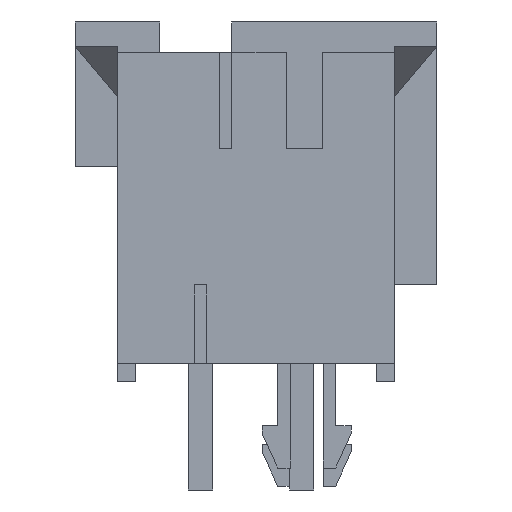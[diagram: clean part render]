
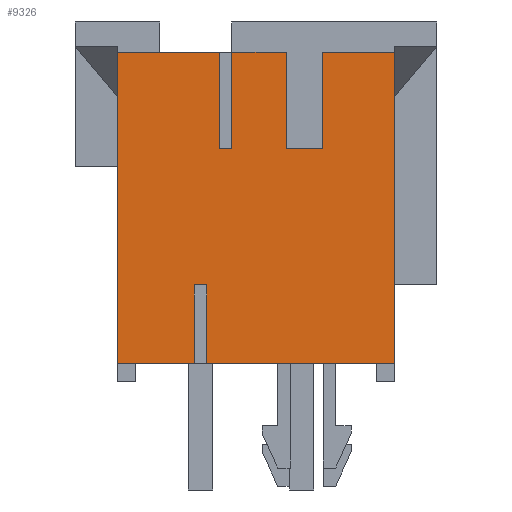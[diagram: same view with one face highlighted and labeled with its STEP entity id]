
A CAD part, left-side view. The second image highlights one B-rep face of the part: STEP entity #9326.
In plain terms, the highlighted planar face has unit normal (-1, 0, 0).
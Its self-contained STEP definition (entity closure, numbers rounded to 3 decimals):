
#2229=DIRECTION('',(0.,0.,1.));
#2230=VECTOR('',#2229,12.9);
#2231=CARTESIAN_POINT('',(-11.505,5.75,-6.7));
#2232=LINE('',#2231,#2230);
#3101=DIRECTION('',(0.,1.,0.));
#3102=VECTOR('',#3101,0.5);
#3103=CARTESIAN_POINT('',(-11.505,2.05,-3.45));
#3104=LINE('',#3103,#3102);
#3105=DIRECTION('',(0.,0.,1.));
#3106=VECTOR('',#3105,3.25);
#3107=CARTESIAN_POINT('',(-11.505,2.55,-6.7));
#3108=LINE('',#3107,#3106);
#3109=DIRECTION('',(0.,1.,0.));
#3110=VECTOR('',#3109,3.2);
#3111=CARTESIAN_POINT('',(-11.505,2.55,-6.7));
#3112=LINE('',#3111,#3110);
#3113=DIRECTION('',(0.,-1.,0.));
#3114=VECTOR('',#3113,4.25);
#3115=CARTESIAN_POINT('',(-11.505,5.75,6.2));
#3116=LINE('',#3115,#3114);
#3117=DIRECTION('',(0.,0.,-1.));
#3118=VECTOR('',#3117,4.);
#3119=CARTESIAN_POINT('',(-11.505,1.5,6.2));
#3120=LINE('',#3119,#3118);
#3121=DIRECTION('',(0.,1.,0.));
#3122=VECTOR('',#3121,0.5);
#3123=CARTESIAN_POINT('',(-11.505,1.,2.2));
#3124=LINE('',#3123,#3122);
#3125=DIRECTION('',(0.,0.,-1.));
#3126=VECTOR('',#3125,4.);
#3127=CARTESIAN_POINT('',(-11.505,1.,6.2));
#3128=LINE('',#3127,#3126);
#3129=DIRECTION('',(0.,-1.,0.));
#3130=VECTOR('',#3129,2.25);
#3131=CARTESIAN_POINT('',(-11.505,1.,6.2));
#3132=LINE('',#3131,#3130);
#3133=DIRECTION('',(0.,0.,-1.));
#3134=VECTOR('',#3133,4.);
#3135=CARTESIAN_POINT('',(-11.505,-1.25,6.2));
#3136=LINE('',#3135,#3134);
#3137=DIRECTION('',(0.,1.,0.));
#3138=VECTOR('',#3137,1.5);
#3139=CARTESIAN_POINT('',(-11.505,-2.75,2.2));
#3140=LINE('',#3139,#3138);
#3141=DIRECTION('',(0.,0.,-1.));
#3142=VECTOR('',#3141,4.);
#3143=CARTESIAN_POINT('',(-11.505,-2.75,6.2));
#3144=LINE('',#3143,#3142);
#3145=DIRECTION('',(0.,-1.,0.));
#3146=VECTOR('',#3145,3.);
#3147=CARTESIAN_POINT('',(-11.505,-2.75,6.2));
#3148=LINE('',#3147,#3146);
#3149=DIRECTION('',(0.,0.,1.));
#3150=VECTOR('',#3149,12.9);
#3151=CARTESIAN_POINT('',(-11.505,-5.75,-6.7));
#3152=LINE('',#3151,#3150);
#3153=DIRECTION('',(0.,1.,0.));
#3154=VECTOR('',#3153,7.8);
#3155=CARTESIAN_POINT('',(-11.505,-5.75,-6.7));
#3156=LINE('',#3155,#3154);
#3157=DIRECTION('',(0.,0.,1.));
#3158=VECTOR('',#3157,3.25);
#3159=CARTESIAN_POINT('',(-11.505,2.05,-6.7));
#3160=LINE('',#3159,#3158);
#4043=CARTESIAN_POINT('',(-11.505,-2.75,2.2));
#4044=CARTESIAN_POINT('',(-11.505,-1.25,2.2));
#4045=VERTEX_POINT('',#4043);
#4046=VERTEX_POINT('',#4044);
#4047=CARTESIAN_POINT('',(-11.505,1.5,6.2));
#4048=CARTESIAN_POINT('',(-11.505,1.5,2.2));
#4049=VERTEX_POINT('',#4047);
#4050=VERTEX_POINT('',#4048);
#4051=CARTESIAN_POINT('',(-11.505,1.,6.2));
#4052=CARTESIAN_POINT('',(-11.505,1.,2.2));
#4053=VERTEX_POINT('',#4051);
#4054=VERTEX_POINT('',#4052);
#4075=CARTESIAN_POINT('',(-11.505,-1.25,6.2));
#4077=VERTEX_POINT('',#4075);
#4079=CARTESIAN_POINT('',(-11.505,-2.75,6.2));
#4081=VERTEX_POINT('',#4079);
#4870=CARTESIAN_POINT('',(-11.505,2.55,-6.7));
#4872=VERTEX_POINT('',#4870);
#4876=CARTESIAN_POINT('',(-11.505,2.05,-6.7));
#4877=VERTEX_POINT('',#4876);
#4882=CARTESIAN_POINT('',(-11.505,2.05,-3.45));
#4883=CARTESIAN_POINT('',(-11.505,2.55,-3.45));
#4884=VERTEX_POINT('',#4882);
#4885=VERTEX_POINT('',#4883);
#4908=CARTESIAN_POINT('',(-11.505,5.75,-6.7));
#4909=CARTESIAN_POINT('',(-11.505,5.75,6.2));
#4910=VERTEX_POINT('',#4908);
#4911=VERTEX_POINT('',#4909);
#4912=CARTESIAN_POINT('',(-11.505,-5.75,-6.7));
#4913=CARTESIAN_POINT('',(-11.505,-5.75,6.2));
#4914=VERTEX_POINT('',#4912);
#4915=VERTEX_POINT('',#4913);
#9298=CARTESIAN_POINT('',(-11.505,4.,6.2));
#9299=DIRECTION('',(-1.,0.,0.));
#9300=DIRECTION('',(0.,-1.,0.));
#9301=AXIS2_PLACEMENT_3D('',#9298,#9299,#9300);
#9302=PLANE('',#9301);
#9303=ORIENTED_EDGE('',*,*,#5595,.T.);
#9305=ORIENTED_EDGE('',*,*,#9304,.F.);
#9306=ORIENTED_EDGE('',*,*,#5665,.T.);
#9307=ORIENTED_EDGE('',*,*,#7914,.T.);
#9308=ORIENTED_EDGE('',*,*,#5283,.T.);
#9310=ORIENTED_EDGE('',*,*,#9309,.T.);
#9311=ORIENTED_EDGE('',*,*,#5411,.F.);
#9312=ORIENTED_EDGE('',*,*,#5536,.F.);
#9313=ORIENTED_EDGE('',*,*,#5259,.T.);
#9315=ORIENTED_EDGE('',*,*,#9314,.T.);
#9316=ORIENTED_EDGE('',*,*,#5427,.F.);
#9318=ORIENTED_EDGE('',*,*,#9317,.F.);
#9319=ORIENTED_EDGE('',*,*,#5186,.T.);
#9320=ORIENTED_EDGE('',*,*,#8040,.F.);
#9321=ORIENTED_EDGE('',*,*,#5673,.T.);
#9323=ORIENTED_EDGE('',*,*,#9322,.T.);
#9324=EDGE_LOOP('',(#9303,#9305,#9306,#9307,#9308,#9310,#9311,#9312,#9313,#9315,
#9316,#9318,#9319,#9320,#9321,#9323));
#9325=FACE_OUTER_BOUND('',#9324,.F.);
#9326=ADVANCED_FACE('',(#9325),#9302,.T.);
#5186=EDGE_CURVE('',#4081,#4915,#3148,.T.);
#5259=EDGE_CURVE('',#4053,#4077,#3132,.T.);
#5283=EDGE_CURVE('',#4911,#4049,#3116,.T.);
#5411=EDGE_CURVE('',#4054,#4050,#3124,.T.);
#5427=EDGE_CURVE('',#4045,#4046,#3140,.T.);
#5536=EDGE_CURVE('',#4053,#4054,#3128,.T.);
#5595=EDGE_CURVE('',#4884,#4885,#3104,.T.);
#5665=EDGE_CURVE('',#4872,#4910,#3112,.T.);
#5673=EDGE_CURVE('',#4914,#4877,#3156,.T.);
#7914=EDGE_CURVE('',#4910,#4911,#2232,.T.);
#8040=EDGE_CURVE('',#4914,#4915,#3152,.T.);
#9304=EDGE_CURVE('',#4872,#4885,#3108,.T.);
#9309=EDGE_CURVE('',#4049,#4050,#3120,.T.);
#9314=EDGE_CURVE('',#4077,#4046,#3136,.T.);
#9317=EDGE_CURVE('',#4081,#4045,#3144,.T.);
#9322=EDGE_CURVE('',#4877,#4884,#3160,.T.);
